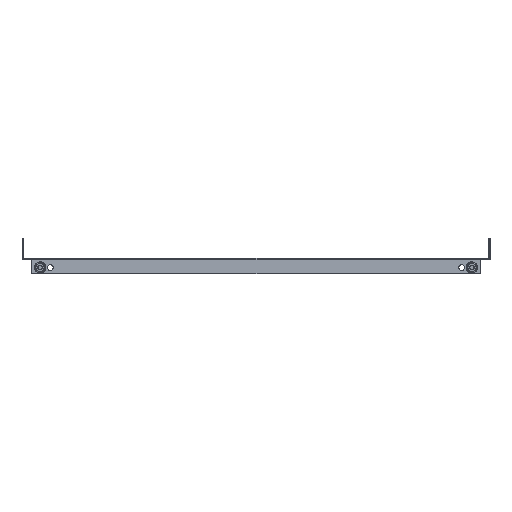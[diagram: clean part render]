
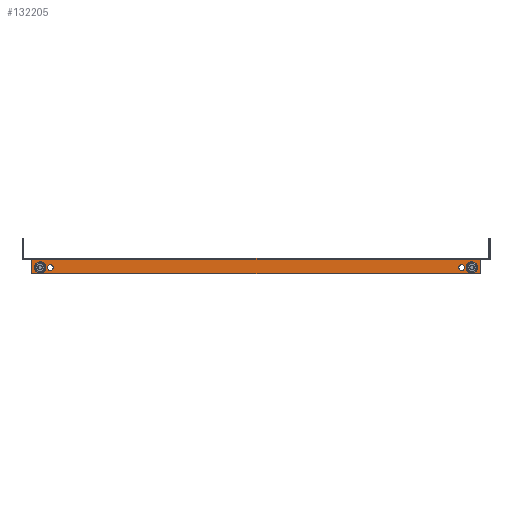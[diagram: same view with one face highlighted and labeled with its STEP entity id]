
A CAD part, left-side view. The second image highlights one B-rep face of the part: STEP entity #132205.
In plain terms, the highlighted planar face has unit normal (-1, 0, 0).
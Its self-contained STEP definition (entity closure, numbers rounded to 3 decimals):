
#107078 = VERTEX_POINT('',#107079);
#107079 = CARTESIAN_POINT('',(-450.,272.5,2.));
#107085 = EDGE_CURVE('',#107086,#107078,#107088,.T.);
#107086 = VERTEX_POINT('',#107087);
#107087 = CARTESIAN_POINT('',(-450.,-272.5,2.));
#107088 = LINE('',#107089,#107090);
#107089 = CARTESIAN_POINT('',(-450.,-282.5,2.));
#107090 = VECTOR('',#107091,1.);
#107091 = DIRECTION('',(0.,1.,-0.));
#132084 = VERTEX_POINT('',#132085);
#132085 = CARTESIAN_POINT('',(-450.,-272.5,-0.6));
#132100 = EDGE_CURVE('',#132084,#107086,#132101,.T.);
#132101 = LINE('',#132102,#132103);
#132102 = CARTESIAN_POINT('',(-450.,-272.5,-0.6));
#132103 = VECTOR('',#132104,1.);
#132104 = DIRECTION('',(0.,-0.,1.));
#132124 = VERTEX_POINT('',#132125);
#132125 = CARTESIAN_POINT('',(-450.,272.5,-0.6));
#132131 = EDGE_CURVE('',#132124,#107078,#132132,.T.);
#132132 = LINE('',#132133,#132134);
#132133 = CARTESIAN_POINT('',(-450.,272.5,0.));
#132134 = VECTOR('',#132135,1.);
#132135 = DIRECTION('',(0.,0.,1.));
#132147 = EDGE_CURVE('',#132148,#132124,#132150,.T.);
#132148 = VERTEX_POINT('',#132149);
#132149 = CARTESIAN_POINT('',(-450.,272.5,-17.));
#132150 = LINE('',#132151,#132152);
#132151 = CARTESIAN_POINT('',(-450.,272.5,0.));
#132152 = VECTOR('',#132153,1.);
#132153 = DIRECTION('',(0.,-0.,1.));
#132187 = EDGE_CURVE('',#132084,#132188,#132190,.T.);
#132188 = VERTEX_POINT('',#132189);
#132189 = CARTESIAN_POINT('',(-450.,-272.5,-17.));
#132190 = LINE('',#132191,#132192);
#132191 = CARTESIAN_POINT('',(-450.,-272.5,-17.));
#132192 = VECTOR('',#132193,1.);
#132193 = DIRECTION('',(0.,-0.,-1.));
#132205 = ADVANCED_FACE('',(#132206,#132226,#132246,#132257,#132268),
  #132281,.T.);
#132206 = FACE_BOUND('',#132207,.T.);
#132207 = EDGE_LOOP('',(#132208,#132219));
#132208 = ORIENTED_EDGE('',*,*,#132209,.F.);
#132209 = EDGE_CURVE('',#132210,#132212,#132214,.T.);
#132210 = VERTEX_POINT('',#132211);
#132211 = CARTESIAN_POINT('',(-450.,-262.5,-13.));
#132212 = VERTEX_POINT('',#132213);
#132213 = CARTESIAN_POINT('',(-450.,-262.5,-6.));
#132214 = CIRCLE('',#132215,3.5);
#132215 = AXIS2_PLACEMENT_3D('',#132216,#132217,#132218);
#132216 = CARTESIAN_POINT('',(-450.,-262.5,-9.5));
#132217 = DIRECTION('',(-1.,0.,0.));
#132218 = DIRECTION('',(0.,0.,-1.));
#132219 = ORIENTED_EDGE('',*,*,#132220,.F.);
#132220 = EDGE_CURVE('',#132212,#132210,#132221,.T.);
#132221 = CIRCLE('',#132222,3.5);
#132222 = AXIS2_PLACEMENT_3D('',#132223,#132224,#132225);
#132223 = CARTESIAN_POINT('',(-450.,-262.5,-9.5));
#132224 = DIRECTION('',(-1.,0.,0.));
#132225 = DIRECTION('',(0.,0.,-1.));
#132226 = FACE_BOUND('',#132227,.T.);
#132227 = EDGE_LOOP('',(#132228,#132239));
#132228 = ORIENTED_EDGE('',*,*,#132229,.F.);
#132229 = EDGE_CURVE('',#132230,#132232,#132234,.T.);
#132230 = VERTEX_POINT('',#132231);
#132231 = CARTESIAN_POINT('',(-450.,-250.,-13.));
#132232 = VERTEX_POINT('',#132233);
#132233 = CARTESIAN_POINT('',(-450.,-250.,-6.));
#132234 = CIRCLE('',#132235,3.5);
#132235 = AXIS2_PLACEMENT_3D('',#132236,#132237,#132238);
#132236 = CARTESIAN_POINT('',(-450.,-250.,-9.5));
#132237 = DIRECTION('',(-1.,0.,0.));
#132238 = DIRECTION('',(0.,0.,-1.));
#132239 = ORIENTED_EDGE('',*,*,#132240,.F.);
#132240 = EDGE_CURVE('',#132232,#132230,#132241,.T.);
#132241 = CIRCLE('',#132242,3.5);
#132242 = AXIS2_PLACEMENT_3D('',#132243,#132244,#132245);
#132243 = CARTESIAN_POINT('',(-450.,-250.,-9.5));
#132244 = DIRECTION('',(-1.,0.,0.));
#132245 = DIRECTION('',(0.,0.,-1.));
#132246 = FACE_BOUND('',#132247,.T.);
#132247 = EDGE_LOOP('',(#132248));
#132248 = ORIENTED_EDGE('',*,*,#132249,.F.);
#132249 = EDGE_CURVE('',#132250,#132250,#132252,.T.);
#132250 = VERTEX_POINT('',#132251);
#132251 = CARTESIAN_POINT('',(-450.,250.,-6.));
#132252 = CIRCLE('',#132253,3.5);
#132253 = AXIS2_PLACEMENT_3D('',#132254,#132255,#132256);
#132254 = CARTESIAN_POINT('',(-450.,250.,-9.5));
#132255 = DIRECTION('',(-1.,0.,0.));
#132256 = DIRECTION('',(0.,0.,1.));
#132257 = FACE_BOUND('',#132258,.T.);
#132258 = EDGE_LOOP('',(#132259));
#132259 = ORIENTED_EDGE('',*,*,#132260,.F.);
#132260 = EDGE_CURVE('',#132261,#132261,#132263,.T.);
#132261 = VERTEX_POINT('',#132262);
#132262 = CARTESIAN_POINT('',(-450.,262.5,-6.));
#132263 = CIRCLE('',#132264,3.5);
#132264 = AXIS2_PLACEMENT_3D('',#132265,#132266,#132267);
#132265 = CARTESIAN_POINT('',(-450.,262.5,-9.5));
#132266 = DIRECTION('',(-1.,0.,0.));
#132267 = DIRECTION('',(0.,0.,1.));
#132268 = FACE_BOUND('',#132269,.T.);
#132269 = EDGE_LOOP('',(#132270,#132271,#132272,#132273,#132274,#132275)
  );
#132270 = ORIENTED_EDGE('',*,*,#132187,.F.);
#132271 = ORIENTED_EDGE('',*,*,#132100,.T.);
#132272 = ORIENTED_EDGE('',*,*,#107085,.T.);
#132273 = ORIENTED_EDGE('',*,*,#132131,.F.);
#132274 = ORIENTED_EDGE('',*,*,#132147,.F.);
#132275 = ORIENTED_EDGE('',*,*,#132276,.F.);
#132276 = EDGE_CURVE('',#132188,#132148,#132277,.T.);
#132277 = LINE('',#132278,#132279);
#132278 = CARTESIAN_POINT('',(-450.,272.5,-17.));
#132279 = VECTOR('',#132280,1.);
#132280 = DIRECTION('',(0.,1.,-0.));
#132281 = PLANE('',#132282);
#132282 = AXIS2_PLACEMENT_3D('',#132283,#132284,#132285);
#132283 = CARTESIAN_POINT('',(-450.,272.5,0.));
#132284 = DIRECTION('',(-1.,0.,0.));
#132285 = DIRECTION('',(0.,0.,1.));
